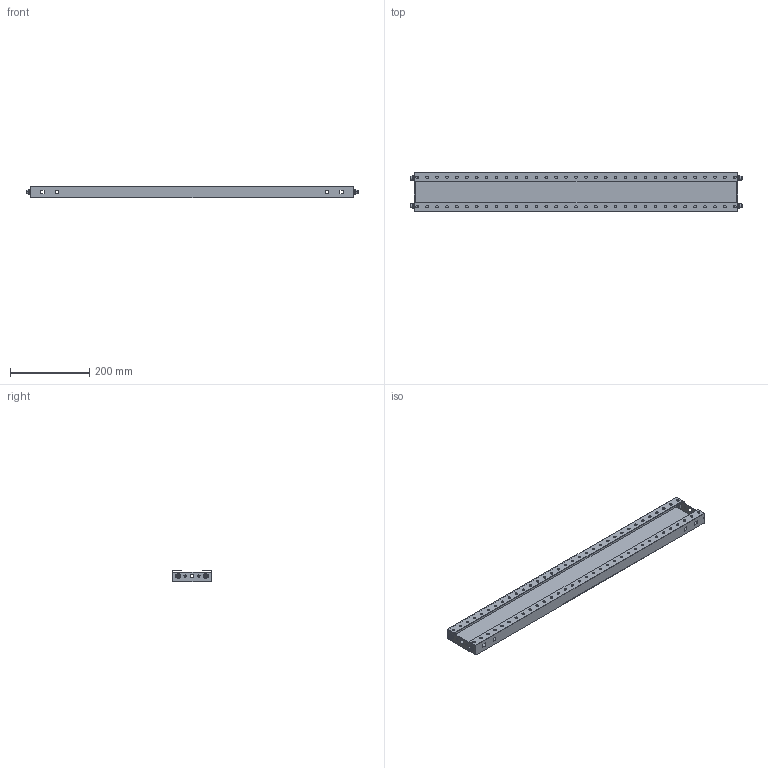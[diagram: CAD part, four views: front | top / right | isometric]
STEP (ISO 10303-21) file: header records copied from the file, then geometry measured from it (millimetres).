
FILE_DESCRIPTION(('Open CASCADE Model'),'2;1');
FILE_NAME('Open CASCADE Shape Model','2025-02-07T17:53:35',('Author'),( 'Open CASCADE'),'Open CASCADE STEP processor 7.8','Open CASCADE 7.8' ,'Unknown');
FILE_SCHEMA(('AUTOMOTIVE_DESIGN { 1 0 10303 214 1 1 1 1 }'));
Length unit declared in the file: millimetre
Products named in the file (5): Compound1; Solid1; Solid2; Solid3; Solid4
Assembly tree (13 placements, depth 2):
  Compound1
    Solid1
    Solid2  x4
    Solid3  x4
    Solid4  x4
Bounding box: 836.2 x 100 x 30 mm (x, y, z)
Volume: 251629.7 mm3; surface area: 341207.1 mm2
Topology: 13 solids, 13 shells, 752 faces, 2102 edges, 1368 vertices
Faces by surface type: plane 378, cylinder 310, cone 32, bspline 16, torus 16
Full cylindrical faces by diameter (mm): 5.5 x4, 6.5 x66
Entity records: 24480 total; most frequent: CARTESIAN_POINT 15778, ORIENTED_EDGE 1812, DIRECTION 1676, EDGE_CURVE 906, VERTEX_POINT 597, AXIS2_PLACEMENT_3D 575, LINE 526, VECTOR 526
